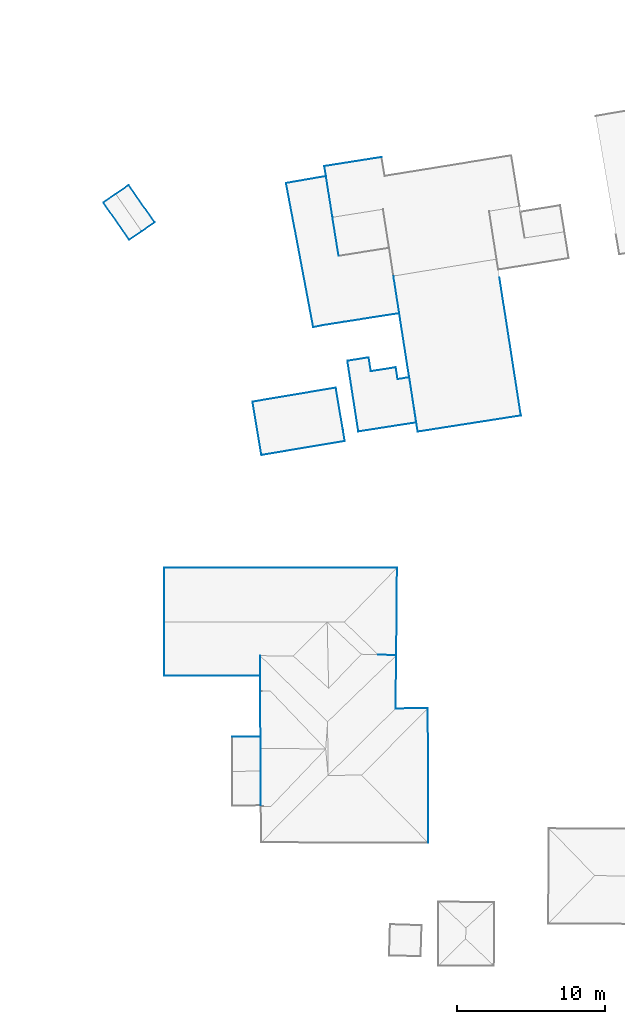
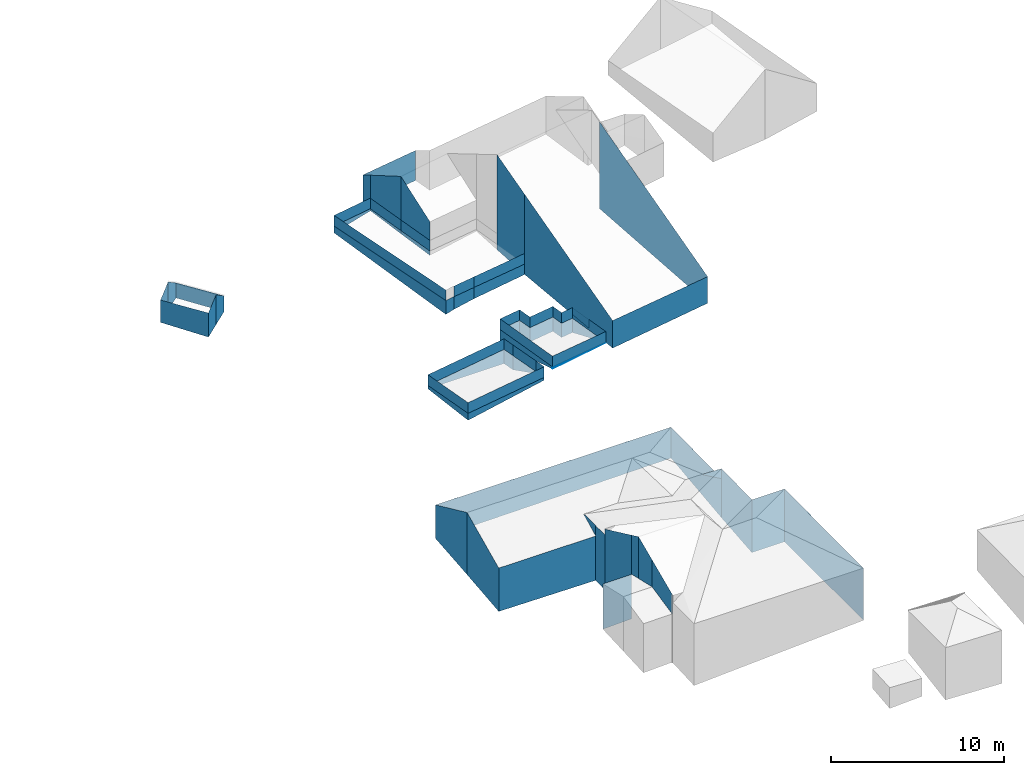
# Not in any storey, part 28 of 59: 88 walls.
"""IFC4 building model written with IfcOpenShell, lengths in metres."""

import ifcopenshell
import ifcopenshell.guid

model = None  # the IFC model being written
_history = None  # IfcOwnerHistory: only IFC2X3 demands one
_inside = {}  # id of a spatial element -> (the spatial element, [elements in it])
_under = {}  # id of a project, library or spatial element -> (it, [spatial elements below it])
_declared = {}  # id of a project -> (the project, [libraries it declares])
_typed = {}  # id of a type object -> (the type object, [elements of that type])
_made_of = {}  # id of a material, layer set ... -> (it, [elements and type objects made of it])


def new_model(schema):
    """Start an empty IFC model of exactly this schema.

    Asked for "IFC4X3", IfcOpenShell would pick the latest addendum, in which some entities
    have other attributes; the version numbers below select the first issue.
    IFC2X3 requires an IfcOwnerHistory on every rooted entity: one is made here for all.
    """
    global model, _history
    if schema == "IFC4X3":
        model = ifcopenshell.file(schema_version=(4, 3, 0, 0))
    else:
        model = ifcopenshell.file(schema=schema)
    _inside.clear()
    _under.clear()
    _declared.clear()
    _typed.clear()
    _made_of.clear()
    _history = None
    if model.schema == "IFC2X3":
        org = make("IfcOrganization", Name="unknown")
        user = make(
            "IfcPersonAndOrganization",
            ThePerson=make("IfcPerson", FamilyName="unknown"),
            TheOrganization=org,
        )
        app = make(
            "IfcApplication",
            ApplicationDeveloper=org,
            Version="unknown",
            ApplicationFullName="unknown",
            ApplicationIdentifier="unknown",
        )
        _history = make(
            "IfcOwnerHistory",
            OwningUser=user,
            OwningApplication=app,
            ChangeAction="ADDED",
            CreationDate=0,
        )
    return model


def make(cls, **values):
    """One entity of the class cls with the attributes given. An attribute that is None is left unset."""
    return model.create_entity(
        cls, **{name: value for name, value in values.items() if value is not None}
    )


def entity(cls, *values):
    """Any entity or typed value of the class cls, its attributes in the order of the schema. None: left unset."""
    e = model.create_entity(cls)
    for i, value in enumerate(values):
        if value is not None:
            e[i] = value
    return e


def rooted(cls, **values):
    """An entity with a GlobalId (a new one), such as an element, a storey or a relation."""
    return make(cls, GlobalId=ifcopenshell.guid.new(), OwnerHistory=_history, **values)


def si_unit(unit_type, name, prefix=None):
    """IfcSIUnit, for example si_unit("LENGTHUNIT", "METRE", prefix="MILLI")."""
    return make("IfcSIUnit", UnitType=unit_type, Prefix=prefix, Name=name)


def converted_unit(unit_type, name, factor, base, dimensions=None, offset=None):
    """IfcConversionBasedUnit, such as the inch: factor (a typed value) times the base unit."""
    return make(
        "IfcConversionBasedUnit"
        if offset is None
        else "IfcConversionBasedUnitWithOffset",
        ConversionOffset=offset,
        Dimensions=None
        if dimensions is None
        else entity("IfcDimensionalExponents", *dimensions),
        UnitType=unit_type,
        Name=name,
        ConversionFactor=make(
            "IfcMeasureWithUnit", ValueComponent=factor, UnitComponent=base
        ),
    )


def assignment(units):
    """IfcUnitAssignment: the units of a project."""
    return None if units is None else make("IfcUnitAssignment", Units=units)


def point(xyz):
    """IfcCartesianPoint."""
    return None if xyz is None else make("IfcCartesianPoint", Coordinates=xyz)


def direction(xyz):
    """IfcDirection."""
    return None if xyz is None else make("IfcDirection", DirectionRatios=xyz)


def frame(location, z_axis=None, x_axis=None):
    """IfcAxis2Placement3D, a coordinate frame: its origin and axes. An axis left out is left unset."""
    return make(
        "IfcAxis2Placement3D",
        Location=point(location),
        Axis=direction(z_axis),
        RefDirection=direction(x_axis),
    )


def origin():
    """The frame at (0, 0, 0) with its axes left unset."""
    return frame((0.0, 0.0, 0.0))


def place(relative_to, where):
    """IfcLocalPlacement: puts the frame where relative to a parent placement (None: the world)."""
    return make(
        "IfcLocalPlacement", PlacementRelTo=relative_to, RelativePlacement=where
    )


def context(
    kind, dimensions, precision=None, world=None, true_north=None, identifier=None
):
    """IfcGeometricRepresentationContext, for example the 3D "Model" context."""
    return make(
        "IfcGeometricRepresentationContext",
        ContextIdentifier=identifier,
        ContextType=kind,
        CoordinateSpaceDimension=dimensions,
        Precision=precision,
        WorldCoordinateSystem=world,
        TrueNorth=true_north,
    )


def subcontext(parent, identifier, kind, view, scale=None):
    """IfcGeometricRepresentationSubContext, for example "Body" below "Model"."""
    return make(
        "IfcGeometricRepresentationSubContext",
        ContextIdentifier=identifier,
        ContextType=kind,
        ParentContext=parent,
        TargetScale=scale,
        TargetView=view,
    )


def project(units=None, contexts=None):
    """IfcProject with its units and contexts."""
    return rooted(
        "IfcProject",
        Name="project",
        RepresentationContexts=contexts,
        UnitsInContext=assignment(units),
    )


def spatial(cls, under=None, at=None, **own):
    """A site, building, storey or space (cls), placed at a placement, below another one or the project."""
    s = rooted(cls, ObjectPlacement=at, **own)
    if under is not None:
        _under.setdefault(under.id(), (under, []))[1].append(s)
    return s


def faces_of(points, faces, orient=None, outer=None):
    """IfcFace entities. A face is a list of loops; a loop is a list of indices into points, from 0.

    orient and outer hold one flag for each loop. By default every Orientation is true, the
    first loop of a face is its IfcFaceOuterBound and the others are IfcFaceBound.
    """
    made = []
    for i, loops in enumerate(faces):
        bounds = []
        for j, loop in enumerate(loops):
            is_outer = j == 0 if outer is None else outer[i][j]
            bounds.append(
                make(
                    "IfcFaceOuterBound" if is_outer else "IfcFaceBound",
                    Bound=make("IfcPolyLoop", Polygon=[points[k] for k in loop]),
                    Orientation=True if orient is None else orient[i][j],
                )
            )
        made.append(make("IfcFace", Bounds=bounds))
    return made


def face_set(faces, orient=None, outer=None):
    """The faces of one IfcConnectedFaceSet. surface_model builds it on its shared points."""
    return ("IfcConnectedFaceSet", faces, orient, outer)


def surface_model(cls, points, shells):
    """IfcFaceBasedSurfaceModel or IfcShellBasedSurfaceModel (cls): surfaces that need not close."""
    shared = [point(p) for p in points]
    made = [make(c, CfsFaces=faces_of(shared, fs, o, b)) for c, fs, o, b in shells]
    if cls == "IfcFaceBasedSurfaceModel":
        return make(cls, FbsmFaces=made)
    return make(cls, SbsmBoundary=made)


def shape(context_of_items, identifier, shape_type, items):
    """IfcShapeRepresentation: the items that make up one representation, for example the "Body"."""
    return make(
        "IfcShapeRepresentation",
        ContextOfItems=context_of_items,
        RepresentationIdentifier=identifier,
        RepresentationType=shape_type,
        Items=items,
    )


def made_of(thing, what):
    """Note that an element or type object is made of a material, layer set ...; save() writes the relation."""
    if what is not None:
        _made_of.setdefault(what.id(), (what, []))[1].append(thing)
    return thing


def element(
    cls,
    number,
    at=None,
    inside=None,
    cuts=None,
    type_object=None,
    material=None,
    context=None,
    identifier="Body",
    shape_type=None,
    held_by="IfcProductDefinitionShape",
    body=None,
    shapes=None,
    **own,
):
    """One element of the class cls, such as IfcWall. Its Tag is "e" and its number.

    at: its placement. inside: the storey or other place that contains it. cuts: it is an
    opening in that element (IfcRelVoidsElement). A single representation is given by context,
    identifier, shape_type and body (its items); several are given by shapes. held_by: the class
    of the entity that holds the representations. save() writes the other relations.
    """
    e = rooted(cls, Tag="e%d" % number, ObjectPlacement=at, **own)
    if body is not None:
        shapes = [shape(context, identifier, shape_type, body)]
    if shapes is not None:
        e.Representation = make(held_by, Representations=shapes)
    if inside is not None:
        _inside.setdefault(inside.id(), (inside, []))[1].append(e)
    if cuts is not None:
        rooted(
            "IfcRelVoidsElement", RelatingBuildingElement=cuts, RelatedOpeningElement=e
        )
    if type_object is not None:
        _typed.setdefault(type_object.id(), (type_object, []))[1].append(e)
    return made_of(e, material)


def aggregate(whole, parts):
    """IfcRelAggregates: a whole, such as a stair, and the parts it consists of."""
    return rooted("IfcRelAggregates", RelatingObject=whole, RelatedObjects=parts)


def save(model, path):
    """Write the relations noted so far, then the file.

    IfcRelAggregates (storeys below a building ...), IfcRelContainedInSpatialStructure (elements
    in a storey), IfcRelDefinesByType, IfcRelAssociatesMaterial and IfcRelDeclares: one each for
    every whole, place, type object, material and project.
    """
    for whole, parts in _under.values():
        aggregate(whole, parts)
    for where, things in _inside.values():
        rooted(
            "IfcRelContainedInSpatialStructure",
            RelatedElements=things,
            RelatingStructure=where,
        )
    for kind, things in _typed.values():
        rooted("IfcRelDefinesByType", RelatedObjects=things, RelatingType=kind)
    for what, things in _made_of.values():
        rooted("IfcRelAssociatesMaterial", RelatedObjects=things, RelatingMaterial=what)
    for by, libraries in _declared.values():
        rooted("IfcRelDeclares", RelatingContext=by, RelatedDefinitions=libraries)
    model.write(path)


model = new_model("IFC4")

# Units and contexts
model_context = context("Model", 3, precision=1e-05, world=origin())
body_context = subcontext(model_context, "Body", "Model", "MODEL_VIEW")
ifc_project = project(units=[converted_unit("PLANEANGLEUNIT", "DEGREE", entity("IfcRatioMeasure", 0.0174532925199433), si_unit("PLANEANGLEUNIT", "RADIAN"), dimensions=[0, 0, 0, 0, 0, 0, 0]), si_unit("AREAUNIT", "SQUARE_METRE"), si_unit("LENGTHUNIT", "METRE")], contexts=[model_context])

# Site, building
site_placement = place(None, origin())
site = spatial("IfcSite", under=ifc_project, at=site_placement, Name="_site")
building_1_placement = place(site_placement, origin())
building_1 = spatial("IfcBuilding", under=site, at=building_1_placement, Name="_building")

# Walls
wall_1_placement = place(building_1_placement, origin())
element("IfcWall", 1, at=wall_1_placement, inside=building_1, Name="Wall", PredefinedType="NOTDEFINED", context=body_context, shape_type="SurfaceModel", body=[
    surface_model("IfcFaceBasedSurfaceModel", [(157.38, 230.18, 218.61), (157.51, 229.381, 218.61), (157.51, 229.381, 219.36), (157.38, 230.18, 219.36)], [face_set([[[0, 1, 2, 3]]])]),
])
wall_2_placement = place(building_1_placement, origin())
element("IfcWall", 2, at=wall_2_placement, inside=building_1, Name="Wall", PredefinedType="NOTDEFINED", context=body_context, shape_type="SurfaceModel", body=[
    surface_model("IfcFaceBasedSurfaceModel", [(151.77, 229.24, 218.61), (157.38, 230.18, 218.61), (157.38, 230.18, 219.36), (151.77, 229.24, 219.36)], [face_set([[[0, 1, 2, 3]]])]),
])
wall_3_placement = place(building_1_placement, origin())
element("IfcWall", 3, at=wall_3_placement, inside=building_1, Name="Wall", PredefinedType="NOTDEFINED", context=body_context, shape_type="SurfaceModel", body=[
    surface_model("IfcFaceBasedSurfaceModel", [(152.37, 225.65, 218.61), (151.77, 229.24, 218.61), (151.77, 229.24, 219.36), (152.37, 225.65, 219.36)], [face_set([[[0, 1, 2, 3]]])]),
])
wall_4_placement = place(building_1_placement, origin())
element("IfcWall", 4, at=wall_4_placement, inside=building_1, Name="Wall", PredefinedType="NOTDEFINED", context=body_context, shape_type="SurfaceModel", body=[
    surface_model("IfcFaceBasedSurfaceModel", [(157.98, 226.59, 218.61), (152.37, 225.65, 218.61), (152.37, 225.65, 219.36), (157.98, 226.59, 219.36)], [face_set([[[0, 1, 2, 3]]])]),
])
wall_5_placement = place(building_1_placement, origin())
element("IfcWall", 5, at=wall_5_placement, inside=building_1, Name="Wall", PredefinedType="NOTDEFINED", context=body_context, shape_type="SurfaceModel", body=[
    surface_model("IfcFaceBasedSurfaceModel", [(157.86, 227.33, 218.61), (157.98, 226.59, 218.61), (157.98, 226.59, 219.36), (157.86, 227.33, 219.36)], [face_set([[[0, 1, 2, 3]]])]),
])
wall_6_placement = place(building_1_placement, origin())
element("IfcWall", 6, at=wall_6_placement, inside=building_1, Name="Wall", PredefinedType="NOTDEFINED", context=body_context, shape_type="SurfaceModel", body=[
    surface_model("IfcFaceBasedSurfaceModel", [(157.38, 230.18, 218.61), (157.51, 229.381, 218.61), (157.51, 229.381, 219.36), (157.38, 230.18, 219.36)], [face_set([[[0, 1, 2, 3]]])]),
])
wall_7_placement = place(building_1_placement, origin())
element("IfcWall", 7, at=wall_7_placement, inside=building_1, Name="Wall", PredefinedType="NOTDEFINED", context=body_context, shape_type="SurfaceModel", body=[
    surface_model("IfcFaceBasedSurfaceModel", [(151.77, 229.24, 218.61), (157.38, 230.18, 218.61), (157.38, 230.18, 219.36), (151.77, 229.24, 219.36)], [face_set([[[0, 1, 2, 3]]])]),
])
wall_8_placement = place(building_1_placement, origin())
element("IfcWall", 8, at=wall_8_placement, inside=building_1, Name="Wall", PredefinedType="NOTDEFINED", context=body_context, shape_type="SurfaceModel", body=[
    surface_model("IfcFaceBasedSurfaceModel", [(152.37, 225.65, 218.61), (151.77, 229.24, 218.61), (151.77, 229.24, 219.36), (152.37, 225.65, 219.36)], [face_set([[[0, 1, 2, 3]]])]),
])
wall_9_placement = place(building_1_placement, origin())
element("IfcWall", 9, at=wall_9_placement, inside=building_1, Name="Wall", PredefinedType="NOTDEFINED", context=body_context, shape_type="SurfaceModel", body=[
    surface_model("IfcFaceBasedSurfaceModel", [(157.98, 226.59, 218.61), (152.37, 225.65, 218.61), (152.37, 225.65, 219.36), (157.98, 226.59, 219.36)], [face_set([[[0, 1, 2, 3]]])]),
])
wall_10_placement = place(building_1_placement, origin())
element("IfcWall", 10, at=wall_10_placement, inside=building_1, Name="Wall", PredefinedType="NOTDEFINED", context=body_context, shape_type="SurfaceModel", body=[
    surface_model("IfcFaceBasedSurfaceModel", [(157.86, 227.33, 218.61), (157.98, 226.59, 218.61), (157.98, 226.59, 219.36), (157.86, 227.33, 219.36)], [face_set([[[0, 1, 2, 3]]])]),
])
for number, where, name in (
    (11, (0.0, 0.0, 0.0), "Wall"),
    (12, (0.0, 0.0, 0.0), "Wall"),
):
    element("IfcWall", number, at=place(building_1_placement, frame(where)), inside=building_1, Name=name, PredefinedType="NOTDEFINED", context=body_context, shape_type="SurfaceModel", body=[
        surface_model("IfcFaceBasedSurfaceModel", [(157.86, 227.33, 218.61), (157.51, 229.381, 218.61), (157.51, 229.381, 219.36), (157.86, 227.33, 219.36)], [face_set([[[0, 1, 2, 3]]])]),
    ])
wall_11_placement = place(building_1_placement, origin())
element("IfcWall", 13, at=wall_11_placement, inside=building_1, Name="Wall", PredefinedType="NOTDEFINED", context=body_context, shape_type="SurfaceModel", body=[
    surface_model("IfcFaceBasedSurfaceModel", [(152.37, 225.65, 218.61), (151.77, 229.24, 218.61), (151.77, 229.24, 218.371), (152.37, 225.65, 218.123)], [face_set([[[0, 1, 2, 3]]])]),
])
wall_12_placement = place(building_1_placement, origin())
element("IfcWall", 14, at=wall_12_placement, inside=building_1, Name="Wall", PredefinedType="NOTDEFINED", context=body_context, shape_type="SurfaceModel", body=[
    surface_model("IfcFaceBasedSurfaceModel", [(157.98, 226.59, 218.61), (152.37, 225.65, 218.61), (152.37, 225.65, 218.123), (157.98, 226.59, 218.413)], [face_set([[[0, 1, 2, 3]]])]),
])
wall_13_placement = place(building_1_placement, origin())
element("IfcWall", 15, at=wall_13_placement, inside=building_1, Name="Wall", PredefinedType="NOTDEFINED", context=body_context, shape_type="SurfaceModel", body=[
    surface_model("IfcFaceBasedSurfaceModel", [(157.38, 230.18, 218.61), (157.51, 229.381, 218.61), (157.51, 229.381, 217.61), (157.38, 230.18, 217.61)], [face_set([[[0, 1, 2, 3]]])]),
])
wall_14_placement = place(building_1_placement, origin())
element("IfcWall", 16, at=wall_14_placement, inside=building_1, Name="Wall", PredefinedType="NOTDEFINED", context=body_context, shape_type="SurfaceModel", body=[
    surface_model("IfcFaceBasedSurfaceModel", [(151.77, 229.24, 218.61), (157.38, 230.18, 218.61), (157.38, 230.18, 217.61), (151.77, 229.24, 218.371)], [face_set([[[0, 1, 2, 3]]])]),
])
wall_15_placement = place(building_1_placement, origin())
element("IfcWall", 17, at=wall_15_placement, inside=building_1, Name="Wall", PredefinedType="NOTDEFINED", context=body_context, shape_type="SurfaceModel", body=[
    surface_model("IfcFaceBasedSurfaceModel", [(157.51, 229.381, 218.61), (157.86, 227.33, 218.61), (157.86, 227.33, 218.47), (157.51, 229.381, 217.61)], [face_set([[[0, 1, 2, 3]]])]),
])

# Building
building_2_placement = place(site_placement, origin())
building_2 = spatial("IfcBuilding", under=site, at=building_2_placement, Name="_building")

# Walls
wall_16_placement = place(building_2_placement, origin())
element("IfcWall", 18, at=wall_16_placement, inside=building_2, Name="Wall", PredefinedType="NOTDEFINED", context=body_context, shape_type="SurfaceModel", body=[
    surface_model("IfcFaceBasedSurfaceModel", [(142.55, 243.23, 220.64), (143.43, 243.84, 219.9), (143.43, 243.84, 218.834), (142.55, 243.23, 218.668)], [face_set([[[0, 1, 2, 3]]])]),
])
wall_17_placement = place(building_2_placement, origin())
element("IfcWall", 19, at=wall_17_placement, inside=building_2, Name="Wall", PredefinedType="NOTDEFINED", context=body_context, shape_type="SurfaceModel", body=[
    surface_model("IfcFaceBasedSurfaceModel", [(145.17, 241.32, 219.9), (144.29, 240.721, 220.64), (144.29, 240.721, 218.54), (145.17, 241.32, 218.792)], [face_set([[[0, 1, 2, 3]]])]),
])
wall_18_placement = place(building_2_placement, origin())
element("IfcWall", 20, at=wall_18_placement, inside=building_2, Name="Wall", PredefinedType="NOTDEFINED", context=body_context, shape_type="SurfaceModel", body=[
    surface_model("IfcFaceBasedSurfaceModel", [(141.72, 242.66, 220.0), (142.55, 243.23, 220.64), (142.55, 243.23, 218.668), (141.72, 242.66, 218.426)], [face_set([[[0, 1, 2, 3]]])]),
])
wall_19_placement = place(building_2_placement, origin())
element("IfcWall", 21, at=wall_19_placement, inside=building_2, Name="Wall", PredefinedType="NOTDEFINED", context=body_context, shape_type="SurfaceModel", body=[
    surface_model("IfcFaceBasedSurfaceModel", [(144.29, 240.721, 220.64), (143.46, 240.15, 220.0), (143.46, 240.15, 218.303), (144.29, 240.721, 218.54)], [face_set([[[0, 1, 2, 3]]])]),
])
wall_20_placement = place(building_2_placement, origin())
element("IfcWall", 22, at=wall_20_placement, inside=building_2, Name="Wall", PredefinedType="NOTDEFINED", context=body_context, shape_type="SurfaceModel", body=[
    surface_model("IfcFaceBasedSurfaceModel", [(143.43, 243.84, 219.9), (145.17, 241.32, 219.9), (145.17, 241.32, 218.792), (143.43, 243.84, 218.834)], [face_set([[[0, 1, 2, 3]]])]),
])
wall_21_placement = place(building_2_placement, origin())
element("IfcWall", 23, at=wall_21_placement, inside=building_2, Name="Wall", PredefinedType="NOTDEFINED", context=body_context, shape_type="SurfaceModel", body=[
    surface_model("IfcFaceBasedSurfaceModel", [(143.46, 240.15, 220.0), (141.72, 242.66, 220.0), (141.72, 242.66, 218.426), (143.46, 240.15, 218.303)], [face_set([[[0, 1, 2, 3]]])]),
])

# Building
building_3_placement = place(site_placement, origin())
building_3 = spatial("IfcBuilding", under=site, at=building_3_placement, Name="_building")

# Walls
wall_22_placement = place(building_3_placement, origin())
element("IfcWall", 24, at=wall_22_placement, inside=building_3, Name="Wall", PredefinedType="NOTDEFINED", context=body_context, shape_type="SurfaceModel", body=[
    surface_model("IfcFaceBasedSurfaceModel", [(161.651, 235.199, 224.98), (161.26, 237.711, 226.39), (161.26, 237.711, 219.7), (161.651, 235.199, 219.345)], [face_set([[[0, 1, 2, 3]]])]),
])
wall_23_placement = place(building_3_placement, origin())
element("IfcWall", 25, at=wall_23_placement, inside=building_3, Name="Wall", PredefinedType="NOTDEFINED", context=body_context, shape_type="SurfaceModel", body=[
    surface_model("IfcFaceBasedSurfaceModel", [(168.32, 238.141, 225.99), (169.85, 228.311, 220.5), (169.85, 228.311, 218.63), (168.32, 238.141, 219.868)], [face_set([[[0, 1, 2, 3]]])]),
])
wall_24_placement = place(building_3_placement, origin())
element("IfcWall", 26, at=wall_24_placement, inside=building_3, Name="Wall", PredefinedType="NOTDEFINED", context=body_context, shape_type="SurfaceModel", body=[
    surface_model("IfcFaceBasedSurfaceModel", [(157.15, 241.67, 223.9), (156.718, 244.439, 222.459), (156.718, 244.439, 219.948), (157.15, 241.67, 219.859)], [face_set([[[0, 1, 2, 3]]])]),
])
wall_25_placement = place(building_3_placement, origin())
element("IfcWall", 27, at=wall_25_placement, inside=building_3, Name="Wall", PredefinedType="NOTDEFINED", context=body_context, shape_type="SurfaceModel", body=[
    surface_model("IfcFaceBasedSurfaceModel", [(157.57, 239.061, 222.15), (157.15, 241.67, 223.9), (157.15, 241.67, 219.859), (157.57, 239.061, 219.776)], [face_set([[[0, 1, 2, 3]]])]),
])
wall_26_placement = place(building_3_placement, origin())
element("IfcWall", 28, at=wall_26_placement, inside=building_3, Name="Wall", PredefinedType="NOTDEFINED", context=body_context, shape_type="SurfaceModel", body=[
    surface_model("IfcFaceBasedSurfaceModel", [(162.9, 227.221, 220.5), (161.651, 235.199, 224.98), (161.651, 235.199, 219.345), (162.9, 227.221, 218.561)], [face_set([[[0, 1, 2, 3]]])]),
])
wall_27_placement = place(building_3_placement, origin())
element("IfcWall", 29, at=wall_27_placement, inside=building_3, Name="Wall", PredefinedType="NOTDEFINED", context=body_context, shape_type="SurfaceModel", body=[
    surface_model("IfcFaceBasedSurfaceModel", [(156.718, 244.439, 222.459), (156.61, 245.109, 222.11), (156.61, 245.109, 219.97), (156.718, 244.439, 219.948)], [face_set([[[0, 1, 2, 3]]])]),
])
wall_28_placement = place(building_3_placement, origin())
element("IfcWall", 30, at=wall_28_placement, inside=building_3, Name="Wall", PredefinedType="NOTDEFINED", context=body_context, shape_type="SurfaceModel", body=[
    surface_model("IfcFaceBasedSurfaceModel", [(156.61, 245.109, 222.11), (160.46, 245.721, 222.11), (160.46, 245.721, 220.0), (156.61, 245.109, 219.97)], [face_set([[[0, 1, 2, 3]]])]),
])
wall_29_placement = place(building_3_placement, origin())
element("IfcWall", 31, at=wall_29_placement, inside=building_3, Name="Wall", PredefinedType="NOTDEFINED", context=body_context, shape_type="SurfaceModel", body=[
    surface_model("IfcFaceBasedSurfaceModel", [(154.03, 243.971, 220.101), (156.718, 244.439, 220.101), (156.718, 244.439, 220.851), (154.03, 243.971, 220.851)], [face_set([[[0, 1, 2, 3]]])]),
])
wall_30_placement = place(building_3_placement, origin())
element("IfcWall", 32, at=wall_30_placement, inside=building_3, Name="Wall", PredefinedType="NOTDEFINED", context=body_context, shape_type="SurfaceModel", body=[
    surface_model("IfcFaceBasedSurfaceModel", [(155.86, 234.26, 220.101), (154.03, 243.971, 220.101), (154.03, 243.971, 220.851), (155.86, 234.26, 220.851)], [face_set([[[0, 1, 2, 3]]])]),
])
wall_31_placement = place(building_3_placement, origin())
element("IfcWall", 33, at=wall_31_placement, inside=building_3, Name="Wall", PredefinedType="NOTDEFINED", context=body_context, shape_type="SurfaceModel", body=[
    surface_model("IfcFaceBasedSurfaceModel", [(154.03, 243.971, 220.101), (156.718, 244.439, 220.101), (156.718, 244.439, 220.851), (154.03, 243.971, 220.851)], [face_set([[[0, 1, 2, 3]]])]),
])
wall_32_placement = place(building_3_placement, origin())
element("IfcWall", 34, at=wall_32_placement, inside=building_3, Name="Wall", PredefinedType="NOTDEFINED", context=body_context, shape_type="SurfaceModel", body=[
    surface_model("IfcFaceBasedSurfaceModel", [(155.86, 234.26, 220.101), (154.03, 243.971, 220.101), (154.03, 243.971, 220.851), (155.86, 234.26, 220.851)], [face_set([[[0, 1, 2, 3]]])]),
])
for number, where, name in (
    (35, (0.0, 0.0, 0.0), "Wall"),
    (36, (0.0, 0.0, 0.0), "Wall"),
):
    element("IfcWall", number, at=place(building_3_placement, frame(where)), inside=building_3, Name=name, PredefinedType="NOTDEFINED", context=body_context, shape_type="SurfaceModel", body=[
        surface_model("IfcFaceBasedSurfaceModel", [(157.57, 239.061, 220.08), (157.15, 241.67, 220.08), (157.15, 241.67, 220.83), (157.57, 239.061, 220.83)], [face_set([[[0, 1, 2, 3]]])]),
    ])
for number, where, name in (
    (37, (0.0, 0.0, 0.0), "Wall"),
    (38, (0.0, 0.0, 0.0), "Wall"),
):
    element("IfcWall", number, at=place(building_3_placement, frame(where)), inside=building_3, Name=name, PredefinedType="NOTDEFINED", context=body_context, shape_type="SurfaceModel", body=[
        surface_model("IfcFaceBasedSurfaceModel", [(157.15, 241.67, 220.08), (156.718, 244.439, 220.08), (156.718, 244.439, 220.83), (157.15, 241.67, 220.83)], [face_set([[[0, 1, 2, 3]]])]),
    ])
wall_33_placement = place(building_3_placement, origin())
element("IfcWall", 39, at=wall_33_placement, inside=building_3, Name="Wall", PredefinedType="NOTDEFINED", context=body_context, shape_type="SurfaceModel", body=[
    surface_model("IfcFaceBasedSurfaceModel", [(157.93, 234.619, 220.08), (161.651, 235.199, 220.08), (161.651, 235.199, 220.83), (157.93, 234.619, 220.83)], [face_set([[[0, 1, 2, 3]]])]),
])
wall_34_placement = place(building_3_placement, origin())
element("IfcWall", 40, at=wall_34_placement, inside=building_3, Name="Wall", PredefinedType="NOTDEFINED", context=body_context, shape_type="SurfaceModel", body=[
    surface_model("IfcFaceBasedSurfaceModel", [(156.49, 234.391, 220.08), (157.93, 234.619, 220.08), (157.93, 234.619, 220.83), (156.49, 234.391, 220.83)], [face_set([[[0, 1, 2, 3]]])]),
])
wall_35_placement = place(building_3_placement, origin())
element("IfcWall", 41, at=wall_35_placement, inside=building_3, Name="Wall", PredefinedType="NOTDEFINED", context=body_context, shape_type="SurfaceModel", body=[
    surface_model("IfcFaceBasedSurfaceModel", [(157.93, 234.619, 220.08), (161.651, 235.199, 220.08), (161.651, 235.199, 220.83), (157.93, 234.619, 220.83)], [face_set([[[0, 1, 2, 3]]])]),
])
wall_36_placement = place(building_3_placement, origin())
element("IfcWall", 42, at=wall_36_placement, inside=building_3, Name="Wall", PredefinedType="NOTDEFINED", context=body_context, shape_type="SurfaceModel", body=[
    surface_model("IfcFaceBasedSurfaceModel", [(156.49, 234.391, 220.08), (157.93, 234.619, 220.08), (157.93, 234.619, 220.83), (156.49, 234.391, 220.83)], [face_set([[[0, 1, 2, 3]]])]),
])
wall_37_placement = place(building_3_placement, origin())
element("IfcWall", 43, at=wall_37_placement, inside=building_3, Name="Wall", PredefinedType="NOTDEFINED", context=body_context, shape_type="SurfaceModel", body=[
    surface_model("IfcFaceBasedSurfaceModel", [(154.03, 243.971, 220.101), (156.718, 244.439, 220.101), (156.718, 244.439, 219.948), (154.03, 243.971, 219.621)], [face_set([[[0, 1, 2, 3]]])]),
])
wall_38_placement = place(building_3_placement, origin())
element("IfcWall", 44, at=wall_38_placement, inside=building_3, Name="Wall", PredefinedType="NOTDEFINED", context=body_context, shape_type="SurfaceModel", body=[
    surface_model("IfcFaceBasedSurfaceModel", [(161.651, 235.199, 220.08), (157.93, 234.619, 220.08), (157.93, 234.619, 219.29), (161.651, 235.199, 219.345)], [face_set([[[0, 1, 2, 3]]])]),
])
wall_39_placement = place(building_3_placement, origin())
element("IfcWall", 45, at=wall_39_placement, inside=building_3, Name="Wall", PredefinedType="NOTDEFINED", context=body_context, shape_type="SurfaceModel", body=[
    surface_model("IfcFaceBasedSurfaceModel", [(157.93, 234.619, 220.08), (156.49, 234.391, 220.08), (156.49, 234.391, 219.196), (157.93, 234.619, 219.29)], [face_set([[[0, 1, 2, 3]]])]),
])
wall_40_placement = place(building_3_placement, origin())
element("IfcWall", 46, at=wall_40_placement, inside=building_3, Name="Wall", PredefinedType="NOTDEFINED", context=body_context, shape_type="SurfaceModel", body=[
    surface_model("IfcFaceBasedSurfaceModel", [(155.86, 234.26, 220.101), (154.03, 243.971, 220.101), (154.03, 243.971, 219.621), (155.86, 234.26, 219.133)], [face_set([[[0, 1, 2, 3]]])]),
])
wall_41_placement = place(building_3_placement, origin())
element("IfcWall", 47, at=wall_41_placement, inside=building_3, Name="Wall", PredefinedType="NOTDEFINED", context=body_context, shape_type="SurfaceModel", body=[
    surface_model("IfcFaceBasedSurfaceModel", [(156.49, 234.391, 220.101), (155.86, 234.26, 220.101), (155.86, 234.26, 219.133), (156.49, 234.391, 219.196)], [face_set([[[0, 1, 2, 3]]])]),
])
wall_42_placement = place(building_3_placement, origin())
element("IfcWall", 48, at=wall_42_placement, inside=building_3, Name="Wall", PredefinedType="NOTDEFINED", context=body_context, shape_type="SurfaceModel", body=[
    surface_model("IfcFaceBasedSurfaceModel", [(169.85, 228.311, 220.5), (162.9, 227.221, 220.5), (162.9, 227.221, 218.561), (169.85, 228.311, 218.63)], [face_set([[[0, 1, 2, 3]]])]),
])
wall_43_placement = place(building_3_placement, origin())
element("IfcWall", 49, at=wall_43_placement, inside=building_3, Name="Wall", PredefinedType="NOTDEFINED", context=body_context, shape_type="SurfaceModel", body=[
    surface_model("IfcFaceBasedSurfaceModel", [(162.33, 230.881, 218.64), (162.8, 227.84, 218.64), (162.8, 227.84, 219.39), (162.33, 230.881, 219.39)], [face_set([[[0, 1, 2, 3]]])]),
])
wall_44_placement = place(building_3_placement, origin())
element("IfcWall", 50, at=wall_44_placement, inside=building_3, Name="Wall", PredefinedType="NOTDEFINED", context=body_context, shape_type="SurfaceModel", body=[
    surface_model("IfcFaceBasedSurfaceModel", [(161.54, 230.76, 218.64), (162.33, 230.881, 218.64), (162.33, 230.881, 219.39), (161.54, 230.76, 219.39)], [face_set([[[0, 1, 2, 3]]])]),
])
wall_45_placement = place(building_3_placement, origin())
element("IfcWall", 51, at=wall_45_placement, inside=building_3, Name="Wall", PredefinedType="NOTDEFINED", context=body_context, shape_type="SurfaceModel", body=[
    surface_model("IfcFaceBasedSurfaceModel", [(161.42, 231.551, 218.64), (161.54, 230.76, 218.64), (161.54, 230.76, 219.39), (161.42, 231.551, 219.39)], [face_set([[[0, 1, 2, 3]]])]),
])
wall_46_placement = place(building_3_placement, origin())
element("IfcWall", 52, at=wall_46_placement, inside=building_3, Name="Wall", PredefinedType="NOTDEFINED", context=body_context, shape_type="SurfaceModel", body=[
    surface_model("IfcFaceBasedSurfaceModel", [(159.74, 231.289, 218.64), (161.42, 231.551, 218.64), (161.42, 231.551, 219.39), (159.74, 231.289, 219.39)], [face_set([[[0, 1, 2, 3]]])]),
])
wall_47_placement = place(building_3_placement, origin())
element("IfcWall", 53, at=wall_47_placement, inside=building_3, Name="Wall", PredefinedType="NOTDEFINED", context=body_context, shape_type="SurfaceModel", body=[
    surface_model("IfcFaceBasedSurfaceModel", [(159.59, 232.221, 218.64), (159.74, 231.289, 218.64), (159.74, 231.289, 219.39), (159.59, 232.221, 219.39)], [face_set([[[0, 1, 2, 3]]])]),
])
wall_48_placement = place(building_3_placement, origin())
element("IfcWall", 54, at=wall_48_placement, inside=building_3, Name="Wall", PredefinedType="NOTDEFINED", context=body_context, shape_type="SurfaceModel", body=[
    surface_model("IfcFaceBasedSurfaceModel", [(158.16, 231.99, 218.64), (159.59, 232.221, 218.64), (159.59, 232.221, 219.39), (158.16, 231.99, 219.39)], [face_set([[[0, 1, 2, 3]]])]),
])
wall_49_placement = place(building_3_placement, origin())
element("IfcWall", 55, at=wall_49_placement, inside=building_3, Name="Wall", PredefinedType="NOTDEFINED", context=body_context, shape_type="SurfaceModel", body=[
    surface_model("IfcFaceBasedSurfaceModel", [(158.9, 227.23, 218.64), (158.16, 231.99, 218.64), (158.16, 231.99, 219.39), (158.9, 227.23, 219.39)], [face_set([[[0, 1, 2, 3]]])]),
])
wall_50_placement = place(building_3_placement, origin())
element("IfcWall", 56, at=wall_50_placement, inside=building_3, Name="Wall", PredefinedType="NOTDEFINED", context=body_context, shape_type="SurfaceModel", body=[
    surface_model("IfcFaceBasedSurfaceModel", [(162.8, 227.84, 218.64), (158.9, 227.23, 218.64), (158.9, 227.23, 219.39), (162.8, 227.84, 219.39)], [face_set([[[0, 1, 2, 3]]])]),
])
wall_51_placement = place(building_3_placement, origin())
element("IfcWall", 57, at=wall_51_placement, inside=building_3, Name="Wall", PredefinedType="NOTDEFINED", context=body_context, shape_type="SurfaceModel", body=[
    surface_model("IfcFaceBasedSurfaceModel", [(162.33, 230.881, 218.64), (162.8, 227.84, 218.64), (162.8, 227.84, 219.39), (162.33, 230.881, 219.39)], [face_set([[[0, 1, 2, 3]]])]),
])
wall_52_placement = place(building_3_placement, origin())
element("IfcWall", 58, at=wall_52_placement, inside=building_3, Name="Wall", PredefinedType="NOTDEFINED", context=body_context, shape_type="SurfaceModel", body=[
    surface_model("IfcFaceBasedSurfaceModel", [(161.54, 230.76, 218.64), (162.33, 230.881, 218.64), (162.33, 230.881, 219.39), (161.54, 230.76, 219.39)], [face_set([[[0, 1, 2, 3]]])]),
])
wall_53_placement = place(building_3_placement, origin())
element("IfcWall", 59, at=wall_53_placement, inside=building_3, Name="Wall", PredefinedType="NOTDEFINED", context=body_context, shape_type="SurfaceModel", body=[
    surface_model("IfcFaceBasedSurfaceModel", [(161.42, 231.551, 218.64), (161.54, 230.76, 218.64), (161.54, 230.76, 219.39), (161.42, 231.551, 219.39)], [face_set([[[0, 1, 2, 3]]])]),
])
wall_54_placement = place(building_3_placement, origin())
element("IfcWall", 60, at=wall_54_placement, inside=building_3, Name="Wall", PredefinedType="NOTDEFINED", context=body_context, shape_type="SurfaceModel", body=[
    surface_model("IfcFaceBasedSurfaceModel", [(159.74, 231.289, 218.64), (161.42, 231.551, 218.64), (161.42, 231.551, 219.39), (159.74, 231.289, 219.39)], [face_set([[[0, 1, 2, 3]]])]),
])
wall_55_placement = place(building_3_placement, origin())
element("IfcWall", 61, at=wall_55_placement, inside=building_3, Name="Wall", PredefinedType="NOTDEFINED", context=body_context, shape_type="SurfaceModel", body=[
    surface_model("IfcFaceBasedSurfaceModel", [(159.59, 232.221, 218.64), (159.74, 231.289, 218.64), (159.74, 231.289, 219.39), (159.59, 232.221, 219.39)], [face_set([[[0, 1, 2, 3]]])]),
])
wall_56_placement = place(building_3_placement, origin())
element("IfcWall", 62, at=wall_56_placement, inside=building_3, Name="Wall", PredefinedType="NOTDEFINED", context=body_context, shape_type="SurfaceModel", body=[
    surface_model("IfcFaceBasedSurfaceModel", [(158.16, 231.99, 218.64), (159.59, 232.221, 218.64), (159.59, 232.221, 219.39), (158.16, 231.99, 219.39)], [face_set([[[0, 1, 2, 3]]])]),
])
wall_57_placement = place(building_3_placement, origin())
element("IfcWall", 63, at=wall_57_placement, inside=building_3, Name="Wall", PredefinedType="NOTDEFINED", context=body_context, shape_type="SurfaceModel", body=[
    surface_model("IfcFaceBasedSurfaceModel", [(158.9, 227.23, 218.64), (158.16, 231.99, 218.64), (158.16, 231.99, 219.39), (158.9, 227.23, 219.39)], [face_set([[[0, 1, 2, 3]]])]),
])
wall_58_placement = place(building_3_placement, origin())
element("IfcWall", 64, at=wall_58_placement, inside=building_3, Name="Wall", PredefinedType="NOTDEFINED", context=body_context, shape_type="SurfaceModel", body=[
    surface_model("IfcFaceBasedSurfaceModel", [(162.8, 227.84, 218.64), (158.9, 227.23, 218.64), (158.9, 227.23, 219.39), (162.8, 227.84, 219.39)], [face_set([[[0, 1, 2, 3]]])]),
])
wall_59_placement = place(building_3_placement, origin())
element("IfcWall", 65, at=wall_59_placement, inside=building_3, Name="Wall", PredefinedType="NOTDEFINED", context=body_context, shape_type="SurfaceModel", body=[
    surface_model("IfcFaceBasedSurfaceModel", [(162.8, 227.84, 218.64), (158.9, 227.23, 218.64), (158.9, 227.23, 218.494), (162.8, 227.84, 218.607)], [face_set([[[0, 1, 2, 3]]])]),
])
wall_60_placement = place(building_3_placement, origin())
element("IfcWall", 66, at=wall_60_placement, inside=building_3, Name="Wall", PredefinedType="NOTDEFINED", context=body_context, shape_type="SurfaceModel", body=[
    surface_model("IfcFaceBasedSurfaceModel", [(162.33, 230.881, 218.64), (162.8, 227.84, 218.64), (162.8, 227.84, 218.607), (162.33, 230.881, 217.64)], [face_set([[[0, 1, 2, 3]]])]),
])
wall_61_placement = place(building_3_placement, origin())
element("IfcWall", 67, at=wall_61_placement, inside=building_3, Name="Wall", PredefinedType="NOTDEFINED", context=body_context, shape_type="SurfaceModel", body=[
    surface_model("IfcFaceBasedSurfaceModel", [(161.54, 230.76, 218.64), (162.33, 230.881, 218.64), (162.33, 230.881, 217.64), (161.54, 230.76, 217.64)], [face_set([[[0, 1, 2, 3]]])]),
])
wall_62_placement = place(building_3_placement, origin())
element("IfcWall", 68, at=wall_62_placement, inside=building_3, Name="Wall", PredefinedType="NOTDEFINED", context=body_context, shape_type="SurfaceModel", body=[
    surface_model("IfcFaceBasedSurfaceModel", [(161.42, 231.551, 218.64), (161.54, 230.76, 218.64), (161.54, 230.76, 217.64), (161.42, 231.551, 217.64)], [face_set([[[0, 1, 2, 3]]])]),
])
wall_63_placement = place(building_3_placement, origin())
element("IfcWall", 69, at=wall_63_placement, inside=building_3, Name="Wall", PredefinedType="NOTDEFINED", context=body_context, shape_type="SurfaceModel", body=[
    surface_model("IfcFaceBasedSurfaceModel", [(159.74, 231.289, 218.64), (161.42, 231.551, 218.64), (161.42, 231.551, 217.64), (159.74, 231.289, 217.64)], [face_set([[[0, 1, 2, 3]]])]),
])
wall_64_placement = place(building_3_placement, origin())
element("IfcWall", 70, at=wall_64_placement, inside=building_3, Name="Wall", PredefinedType="NOTDEFINED", context=body_context, shape_type="SurfaceModel", body=[
    surface_model("IfcFaceBasedSurfaceModel", [(159.59, 232.221, 218.64), (159.74, 231.289, 218.64), (159.74, 231.289, 217.64), (159.59, 232.221, 217.64)], [face_set([[[0, 1, 2, 3]]])]),
])
wall_65_placement = place(building_3_placement, origin())
element("IfcWall", 71, at=wall_65_placement, inside=building_3, Name="Wall", PredefinedType="NOTDEFINED", context=body_context, shape_type="SurfaceModel", body=[
    surface_model("IfcFaceBasedSurfaceModel", [(158.16, 231.99, 218.64), (159.59, 232.221, 218.64), (159.59, 232.221, 217.64), (158.16, 231.99, 217.64)], [face_set([[[0, 1, 2, 3]]])]),
])
wall_66_placement = place(building_3_placement, origin())
element("IfcWall", 72, at=wall_66_placement, inside=building_3, Name="Wall", PredefinedType="NOTDEFINED", context=body_context, shape_type="SurfaceModel", body=[
    surface_model("IfcFaceBasedSurfaceModel", [(158.9, 227.23, 218.64), (158.16, 231.99, 218.64), (158.16, 231.99, 217.64), (158.9, 227.23, 218.494)], [face_set([[[0, 1, 2, 3]]])]),
])

# Building
building_4_placement = place(site_placement, origin())
building_4 = spatial("IfcBuilding", under=site, at=building_4_placement, Name="_building")

# Walls
wall_67_placement = place(building_4_placement, origin())
element("IfcWall", 73, at=wall_67_placement, inside=building_4, Name="Wall", PredefinedType="NOTDEFINED", context=body_context, shape_type="SurfaceModel", body=[
    surface_model("IfcFaceBasedSurfaceModel", [(152.319, 204.35, 221.234), (152.309, 205.891, 221.93), (152.309, 205.891, 218.991), (152.319, 204.35, 219.33)], [face_set([[[0, 1, 2, 3]]])]),
])
wall_68_placement = place(building_4_placement, origin())
element("IfcWall", 74, at=wall_68_placement, inside=building_4, Name="Wall", PredefinedType="NOTDEFINED", context=body_context, shape_type="SurfaceModel", body=[
    surface_model("IfcFaceBasedSurfaceModel", [(152.309, 205.891, 221.93), (152.3, 206.67, 221.57), (152.3, 206.67, 218.82), (152.309, 205.891, 218.991)], [face_set([[[0, 1, 2, 3]]])]),
])
wall_69_placement = place(building_4_placement, origin())
element("IfcWall", 75, at=wall_69_placement, inside=building_4, Name="Wall", PredefinedType="NOTDEFINED", context=body_context, shape_type="SurfaceModel", body=[
    surface_model("IfcFaceBasedSurfaceModel", [(152.33, 202.039, 220.19), (152.319, 204.35, 221.234), (152.319, 204.35, 219.33), (152.33, 202.039, 218.82)], [face_set([[[0, 1, 2, 3]]])]),
])
wall_70_placement = place(building_4_placement, origin())
element("IfcWall", 76, at=wall_70_placement, inside=building_4, Name="Wall", PredefinedType="NOTDEFINED", context=body_context, shape_type="SurfaceModel", body=[
    surface_model("IfcFaceBasedSurfaceModel", [(152.28, 210.779, 219.75), (152.27, 212.131, 219.76), (152.27, 212.131, 219.71), (152.28, 210.779, 219.03)], [face_set([[[0, 1, 2, 3]]])]),
])
wall_71_placement = place(building_4_placement, origin())
element("IfcWall", 77, at=wall_71_placement, inside=building_4, Name="Wall", PredefinedType="NOTDEFINED", context=body_context, shape_type="SurfaceModel", body=[
    surface_model("IfcFaceBasedSurfaceModel", [(160.23, 212.199, 219.74), (161.45, 212.15, 219.73), (161.45, 212.15, 219.02), (160.23, 212.199, 219.69)], [face_set([[[0, 1, 2, 3]]])]),
])
wall_72_placement = place(building_4_placement, origin())
element("IfcWall", 78, at=wall_72_placement, inside=building_4, Name="Wall", PredefinedType="NOTDEFINED", context=body_context, shape_type="SurfaceModel", body=[
    surface_model("IfcFaceBasedSurfaceModel", [(152.3, 206.67, 221.57), (152.29, 209.74, 220.14), (152.29, 209.74, 215.855), (152.3, 206.67, 215.685)], [face_set([[[0, 1, 2, 3]]])]),
])
wall_73_placement = place(building_4_placement, origin())
element("IfcWall", 79, at=wall_73_placement, inside=building_4, Name="Wall", PredefinedType="NOTDEFINED", context=body_context, shape_type="SurfaceModel", body=[
    surface_model("IfcFaceBasedSurfaceModel", [(145.81, 214.4, 220.75), (145.81, 218.039, 219.08), (145.81, 218.039, 216.717), (145.81, 214.4, 216.382)], [face_set([[[0, 1, 2, 3]]])]),
])
wall_74_placement = place(building_4_placement, origin())
element("IfcWall", 80, at=wall_74_placement, inside=building_4, Name="Wall", PredefinedType="NOTDEFINED", context=body_context, shape_type="SurfaceModel", body=[
    surface_model("IfcFaceBasedSurfaceModel", [(145.82, 210.77, 219.04), (145.81, 214.4, 220.75), (145.81, 214.4, 216.382), (145.82, 210.77, 215.985)], [face_set([[[0, 1, 2, 3]]])]),
])
wall_75_placement = place(building_4_placement, origin())
element("IfcWall", 81, at=wall_75_placement, inside=building_4, Name="Wall", PredefinedType="NOTDEFINED", context=body_context, shape_type="SurfaceModel", body=[
    surface_model("IfcFaceBasedSurfaceModel", [(145.81, 218.039, 219.08), (161.5, 218.061, 219.05), (161.5, 218.061, 216.869), (145.81, 218.039, 216.717)], [face_set([[[0, 1, 2, 3]]])]),
])
wall_76_placement = place(building_4_placement, origin())
element("IfcWall", 82, at=wall_76_placement, inside=building_4, Name="Wall", PredefinedType="NOTDEFINED", context=body_context, shape_type="SurfaceModel", body=[
    surface_model("IfcFaceBasedSurfaceModel", [(161.45, 212.15, 219.73), (161.4, 208.57, 219.72), (161.4, 208.57, 216.003), (161.45, 212.15, 216.26)], [face_set([[[0, 1, 2, 3]]])]),
])
wall_77_placement = place(building_4_placement, origin())
element("IfcWall", 83, at=wall_77_placement, inside=building_4, Name="Wall", PredefinedType="NOTDEFINED", context=body_context, shape_type="SurfaceModel", body=[
    surface_model("IfcFaceBasedSurfaceModel", [(161.4, 208.57, 219.72), (163.58, 208.58, 219.72), (163.58, 208.58, 216.006), (161.4, 208.57, 216.003)], [face_set([[[0, 1, 2, 3]]])]),
])
wall_78_placement = place(building_4_placement, origin())
element("IfcWall", 84, at=wall_78_placement, inside=building_4, Name="Wall", PredefinedType="NOTDEFINED", context=body_context, shape_type="SurfaceModel", body=[
    surface_model("IfcFaceBasedSurfaceModel", [(163.58, 208.58, 219.72), (163.6, 199.52, 219.63), (163.6, 199.52, 215.959), (163.58, 208.58, 216.006)], [face_set([[[0, 1, 2, 3]]])]),
])
wall_79_placement = place(building_4_placement, origin())
element("IfcWall", 85, at=wall_79_placement, inside=building_4, Name="Wall", PredefinedType="NOTDEFINED", context=body_context, shape_type="SurfaceModel", body=[
    surface_model("IfcFaceBasedSurfaceModel", [(152.29, 209.74, 219.74), (152.28, 210.779, 219.75), (152.28, 210.779, 215.912), (152.29, 209.74, 215.855)], [face_set([[[0, 1, 2, 3]]])]),
])
wall_80_placement = place(building_4_placement, origin())
element("IfcWall", 86, at=wall_80_placement, inside=building_4, Name="Wall", PredefinedType="NOTDEFINED", context=body_context, shape_type="SurfaceModel", body=[
    surface_model("IfcFaceBasedSurfaceModel", [(161.5, 218.061, 219.05), (161.45, 212.15, 219.02), (161.45, 212.15, 216.26), (161.5, 218.061, 216.869)], [face_set([[[0, 1, 2, 3]]])]),
])
wall_81_placement = place(building_4_placement, origin())
element("IfcWall", 87, at=wall_81_placement, inside=building_4, Name="Wall", PredefinedType="NOTDEFINED", context=body_context, shape_type="SurfaceModel", body=[
    surface_model("IfcFaceBasedSurfaceModel", [(152.28, 210.779, 219.03), (145.82, 210.77, 219.04), (145.82, 210.77, 215.985), (152.28, 210.779, 215.912)], [face_set([[[0, 1, 2, 3]]])]),
])
wall_82_placement = place(building_4_placement, origin())
element("IfcWall", 88, at=wall_82_placement, inside=building_4, Name="Wall", PredefinedType="NOTDEFINED", context=body_context, shape_type="SurfaceModel", body=[
    surface_model("IfcFaceBasedSurfaceModel", [(150.38, 206.66, 218.82), (152.3, 206.67, 218.82), (152.3, 206.67, 215.685), (150.38, 206.66, 215.632)], [face_set([[[0, 1, 2, 3]]])]),
])

save(model, "model.ifc")
